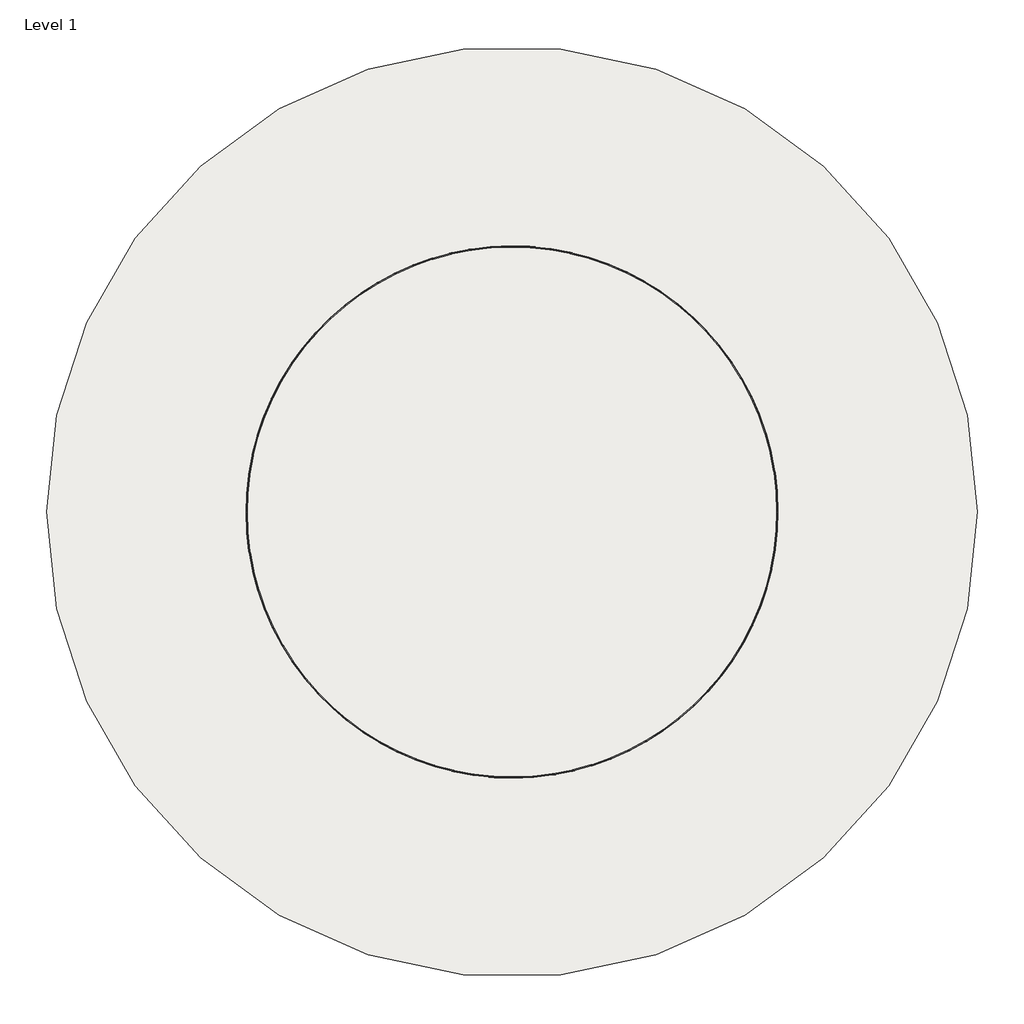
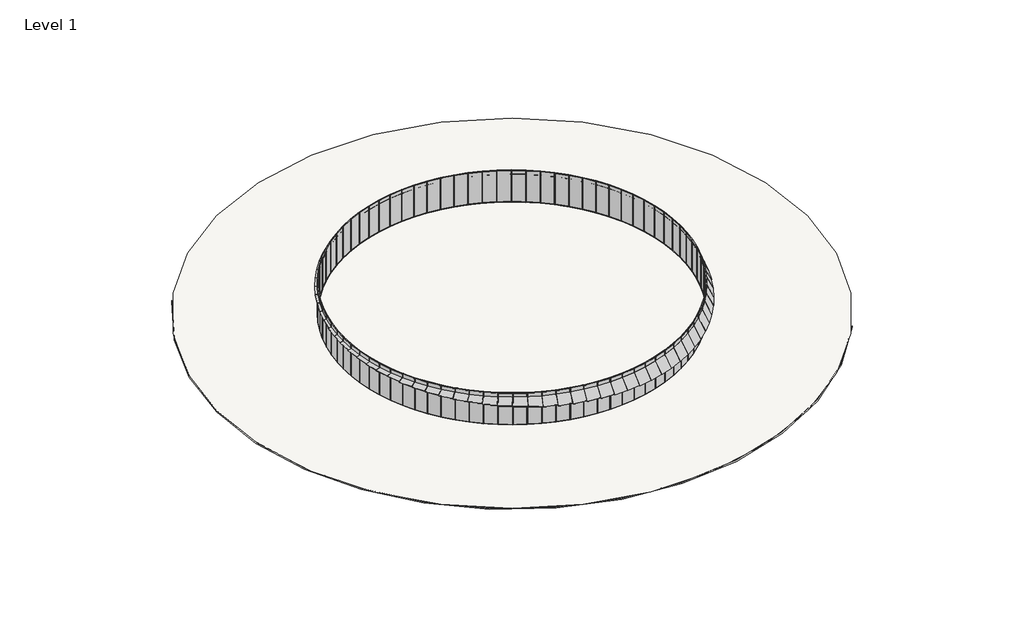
# One storey: 84 plates, 1 slab.
"""IFC4 building model written with IfcOpenShell, lengths in millimetres."""

from ifc_helpers import new_model, si_unit, point, frame, origin, origin_2d, place, context, project, spatial, circle_curve, trimmed, segment, composite_curve, outline, extrude, transform, mapped, element, save
from components import typical_panel_typical_panel_135e8f23, typical_panel_typical_panel_5595ccfb, typical_panel_typical_panel_1dacabfa, typical_panel_typical_panel_de002282, typical_panel_typical_panel_c068772c, typical_panel_typical_panel_b4f8cd0d, typical_panel_typical_panel_24d31985, typical_panel_typical_panel_bf64ccab, typical_panel_typical_panel_7269d920, typical_panel_typical_panel_007911d2, typical_panel_typical_panel_ce44b4bb, typical_panel_typical_panel_4d8c99ed, typical_panel_typical_panel_a2fd8389, typical_panel_typical_panel_fa7228e3, typical_panel_typical_panel_21f6f527, typical_panel_typical_panel_1338079b, typical_panel_typical_panel_994178b1, typical_panel_typical_panel_321f3c24, typical_panel_typical_panel_c4bb10ae, typical_panel_typical_panel_636d6651, typical_panel_typical_panel_3eeb6f99, typical_panel_typical_panel_555c9846, typical_panel_typical_panel_89c6637b, typical_panel_typical_panel_d72680d6, typical_panel_typical_panel_a65719b3, typical_panel_typical_panel_fb959741, typical_panel_typical_panel_bf9a72a6, typical_panel_typical_panel_530a7cf6, typical_panel_typical_panel_7dcf532a, typical_panel_typical_panel_64653f65, typical_panel_typical_panel_a58b40de, typical_panel_typical_panel_9cbe78d2, typical_panel_typical_panel_3d8b9d05, typical_panel_typical_panel_1fc3b25d, typical_panel_typical_panel_199775df, typical_panel_typical_panel_c7be0750, typical_panel_typical_panel_b461bed4, typical_panel_typical_panel_5af8f8b4, typical_panel_typical_panel_452a3de3, typical_panel_typical_panel_9333b02c, typical_panel_typical_panel_dc0afd6a, typical_panel_typical_panel_484bad6c, typical_panel_typical_panel_78da2cf4, typical_panel_typical_panel_ad1c7da8, typical_panel_typical_panel_823978b0, typical_panel_typical_panel_4a132dac, typical_panel_typical_panel_328596d2, typical_panel_typical_panel_e094c6e8, typical_panel_typical_panel_4f07c011, typical_panel_typical_panel_1149305a, typical_panel_typical_panel_529db082, typical_panel_typical_panel_4d45919f, typical_panel_typical_panel_7d76078b, typical_panel_typical_panel_77cb67d9, typical_panel_typical_panel_1d00d27b, typical_panel_typical_panel_c6367479, typical_panel_typical_panel_41a3be12, typical_panel_typical_panel_ce5b174f, typical_panel_typical_panel_92cceb4c, typical_panel_typical_panel_8b2101b3, typical_panel_typical_panel_25451a31, typical_panel_typical_panel_bbcebb09, typical_panel_typical_panel_16c89cbd, typical_panel_typical_panel_3222c149, typical_panel_typical_panel_e5a42394, typical_panel_typical_panel_2061968d, typical_panel_typical_panel_abac9c48, typical_panel_typical_panel_9d5c9c45, typical_panel_typical_panel_519964b2, typical_panel_typical_panel_5b56934d, typical_panel_typical_panel_f94381c8, typical_panel_typical_panel_fa554c48, typical_panel_typical_panel_f5345e9d, typical_panel_typical_panel_8e1d2641

model = new_model("IFC4")

# Units and contexts
model_context = context("Model", 3, world=origin())
ifc_project = project(units=[si_unit("LENGTHUNIT", "METRE", prefix="MILLI")], contexts=[model_context])

# Site, building, storey
site = spatial("IfcSite", under=ifc_project)
building = spatial("IfcBuilding", under=site)
storey = spatial("IfcBuildingStorey", under=building, Name="Level 1", Elevation=0.0)

# Plates
placement = place(None, origin())
typical_panel_typical_panel_shape = typical_panel_typical_panel_135e8f23(model_context)
element("IfcPlate", 1, ObjectType="Typical Panel : Typical Panel", at=placement, inside=storey, context=model_context, shape_type="MappedRepresentation", body=[
    mapped(typical_panel_typical_panel_shape, transform((19971.8749993, 749.4724807, 0.0), x_axis=(-0.037500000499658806, 0.9992966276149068, 0.0), y_axis=(-0.9992966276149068, -0.037500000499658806, 0.0), z_axis=(0.0, 0.0, 1.0))),
])
typical_panel_typical_panel_2_shape = typical_panel_typical_panel_5595ccfb(model_context)
element("IfcPlate", 2, ObjectType="Typical Panel : Typical Panel", at=placement, inside=storey, context=model_context, shape_type="MappedRepresentation", body=[
    mapped(typical_panel_typical_panel_2_shape, transform((-19971.8749993, -749.4724807, 0.0), x_axis=(0.03750000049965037, -0.9992966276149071, 0.0), y_axis=(0.9992966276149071, 0.03750000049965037, 0.0), z_axis=(0.0, 0.0, 1.0))),
])
typical_panel_typical_panel_3_shape = typical_panel_typical_panel_1dacabfa(model_context)
element("IfcPlate", 3, ObjectType="Typical Panel : Typical Panel", at=placement, inside=storey, context=model_context, shape_type="MappedRepresentation", body=[
    mapped(typical_panel_typical_panel_3_shape, transform((19859.5332009, 2244.2016494, 0.0), x_axis=(-0.11228906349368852, 0.9936755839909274, 0.0), y_axis=(-0.9936755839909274, -0.11228906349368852, 0.0), z_axis=(0.0, 0.0, 1.0))),
])
typical_panel_typical_panel_4_shape = typical_panel_typical_panel_de002282(model_context)
element("IfcPlate", 4, ObjectType="Typical Panel : Typical Panel", at=placement, inside=storey, context=model_context, shape_type="MappedRepresentation", body=[
    mapped(typical_panel_typical_panel_4_shape, transform((19635.4815283, 3726.3071738, 0.0), x_axis=(-0.18644650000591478, 0.9824651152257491, 0.0), y_axis=(-0.9824651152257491, -0.18644650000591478, 0.0), z_axis=(0.0, 0.0, 1.0))),
])
element("IfcPlate", 5, ObjectType="Typical Panel : Typical Panel", at=placement, inside=storey, context=model_context, shape_type="MappedRepresentation", body=[
    mapped(typical_panel_typical_panel_4_shape, transform((5275.6619728, -19277.0560706, 0.0), x_axis=(0.9645312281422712, 0.2639687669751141, 0.0), y_axis=(-0.2639687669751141, 0.9645312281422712, 0.0), z_axis=(0.0, 0.0, 1.0))),
])
typical_panel_typical_panel_5_shape = typical_panel_typical_panel_c068772c(model_context)
element("IfcPlate", 6, ObjectType="Typical Panel : Typical Panel", at=placement, inside=storey, context=model_context, shape_type="MappedRepresentation", body=[
    mapped(typical_panel_typical_panel_5_shape, transform((19300.980272, 5187.4522204, 0.0), x_axis=(-0.25955517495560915, 0.9657282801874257, 0.0), y_axis=(-0.9657282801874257, -0.25955517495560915, 0.0), z_axis=(0.0, 0.0, 1.0))),
])
typical_panel_typical_panel_6_shape = typical_panel_typical_panel_b4f8cd0d(model_context)
element("IfcPlate", 7, ObjectType="Typical Panel : Typical Panel", at=placement, inside=storey, context=model_context, shape_type="MappedRepresentation", body=[
    mapped(typical_panel_typical_panel_6_shape, transform((18857.9110018, 6619.4178482, 0.0), x_axis=(-0.3312038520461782, 0.9435592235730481, 0.0), y_axis=(-0.9435592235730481, -0.3312038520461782, 0.0), z_axis=(0.0, 0.0, 1.0))),
])
typical_panel_typical_panel_7_shape = typical_panel_typical_panel_24d31985(model_context)
element("IfcPlate", 8, ObjectType="Typical Panel : Typical Panel", at=placement, inside=storey, context=model_context, shape_type="MappedRepresentation", body=[
    mapped(typical_panel_typical_panel_7_shape, transform((18308.7659821, 8014.1492506, 0.0), x_axis=(-0.40098950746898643, 0.9160826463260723, 0.0), y_axis=(-0.9160826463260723, -0.40098950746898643, 0.0), z_axis=(0.0, 0.0, 1.0))),
])
typical_panel_typical_panel_8_shape = typical_panel_typical_panel_bf64ccab(model_context)
element("IfcPlate", 9, ObjectType="Typical Panel : Typical Panel", at=placement, inside=storey, context=model_context, shape_type="MappedRepresentation", body=[
    mapped(typical_panel_typical_panel_8_shape, transform((17656.6341539, 9363.8010635, 0.0), x_axis=(-0.46851959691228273, 0.883453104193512, 0.0), y_axis=(-0.883453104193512, -0.46851959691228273, 0.0), z_axis=(0.0, 0.0, 1.0))),
])
typical_panel_typical_panel_9_shape = typical_panel_typical_panel_7269d920(model_context)
element("IfcPlate", 10, ObjectType="Typical Panel : Typical Panel", at=placement, inside=storey, context=model_context, shape_type="MappedRepresentation", body=[
    mapped(typical_panel_typical_panel_9_shape, transform((16905.1837585, 10660.7814954, 0.0), x_axis=(-0.533414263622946, 0.8458541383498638, 0.0), y_axis=(-0.8458541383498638, -0.533414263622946, 0.0), z_axis=(0.0, 0.0, 1.0))),
])
typical_panel_typical_panel_10_shape = typical_panel_typical_panel_007911d2(model_context)
element("IfcPlate", 11, ObjectType="Typical Panel : Typical Panel", at=placement, inside=storey, context=model_context, shape_type="MappedRepresentation", body=[
    mapped(typical_panel_typical_panel_10_shape, transform((16058.6417044, 11897.7950314, 0.0), x_axis=(-0.5953084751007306, 0.8034972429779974, 0.0), y_axis=(-0.8034972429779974, -0.5953084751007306, 0.0), z_axis=(0.0, 0.0, 1.0))),
])
typical_panel_typical_panel_11_shape = typical_panel_typical_panel_ce44b4bb(model_context)
element("IfcPlate", 12, ObjectType="Typical Panel : Typical Panel", at=placement, inside=storey, context=model_context, shape_type="MappedRepresentation", body=[
    mapped(typical_panel_typical_panel_11_shape, transform((15121.7697908, 13067.8834703, 0.0), x_axis=(-0.6538540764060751, 0.7566206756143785, 0.0), y_axis=(-0.7566206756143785, -0.6538540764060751, 0.0), z_axis=(0.0, 0.0, 1.0))),
])
typical_panel_typical_panel_12_shape = typical_panel_typical_panel_4d8c99ed(model_context)
element("IfcPlate", 13, ObjectType="Typical Panel : Typical Panel", at=placement, inside=storey, context=model_context, shape_type="MappedRepresentation", body=[
    mapped(typical_panel_typical_panel_12_shape, transform((14099.8379221, 14164.4650648, 0.0), x_axis=(-0.7087217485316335, 0.7054881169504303, 0.0), y_axis=(-0.7054881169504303, -0.7087217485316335, 0.0), z_axis=(0.0, 0.0, 1.0))),
])
typical_panel_typical_panel_13_shape = typical_panel_typical_panel_a2fd8389(model_context)
element("IfcPlate", 14, ObjectType="Typical Panel : Typical Panel", at=placement, inside=storey, context=model_context, shape_type="MappedRepresentation", body=[
    mapped(typical_panel_typical_panel_13_shape, transform((12998.5944651, 15181.3715432, 0.0), x_axis=(-0.7596028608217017, 0.650387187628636, 0.0), y_axis=(-0.650387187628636, -0.7596028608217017, 0.0), z_axis=(0.0, 0.0, 1.0))),
])
typical_panel_typical_panel_14_shape = typical_panel_typical_panel_fa7228e3(model_context)
element("IfcPlate", 15, ObjectType="Typical Panel : Typical Panel", at=placement, inside=storey, context=model_context, shape_type="MappedRepresentation", body=[
    mapped(typical_panel_typical_panel_14_shape, transform((11824.2339142, 16112.8828067, 0.0), x_axis=(-0.8062112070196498, 0.591627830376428, 0.0), y_axis=(-0.591627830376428, -0.8062112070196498, 0.0), z_axis=(0.0, 0.0, 1.0))),
])
typical_panel_typical_panel_15_shape = typical_panel_typical_panel_21f6f527(model_context)
element("IfcPlate", 16, ObjectType="Typical Panel : Typical Panel", at=placement, inside=storey, context=model_context, shape_type="MappedRepresentation", body=[
    mapped(typical_panel_typical_panel_15_shape, transform((10583.3620475, 16953.7591044, 0.0), x_axis=(-0.8482846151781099, 0.5295405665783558, 0.0), y_axis=(-0.5295405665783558, -0.8482846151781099, 0.0), z_axis=(0.0, 0.0, 1.0))),
])
typical_panel_typical_panel_16_shape = typical_panel_typical_panel_1338079b(model_context)
element("IfcPlate", 17, ObjectType="Typical Panel : Typical Panel", at=placement, inside=storey, context=model_context, shape_type="MappedRepresentation", body=[
    mapped(typical_panel_typical_panel_16_shape, transform((9282.9587694, 17699.2705072, 0.0), x_axis=(-0.885586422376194, 0.46447463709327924, 0.0), y_axis=(-0.46447463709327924, -0.885586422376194, 0.0), z_axis=(0.0, 0.0, 1.0))),
])
typical_panel_typical_panel_17_shape = typical_panel_typical_panel_994178b1(model_context)
element("IfcPlate", 18, ObjectType="Typical Panel : Typical Panel", at=placement, inside=storey, context=model_context, shape_type="MappedRepresentation", body=[
    mapped(typical_panel_typical_panel_17_shape, transform((7930.3388481, 18345.2235133, 0.0), x_axis=(-0.9179068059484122, 0.3967960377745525, 0.0), y_axis=(-0.3967960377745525, -0.9179068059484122, 0.0), z_axis=(0.0, 0.0, 1.0))),
])
typical_panel_typical_panel_18_shape = typical_panel_typical_panel_321f3c24(model_context)
element("IfcPlate", 19, ObjectType="Typical Panel : Typical Panel", at=placement, inside=storey, context=model_context, shape_type="MappedRepresentation", body=[
    mapped(typical_panel_typical_panel_18_shape, transform((6533.1107709, 18887.9846372, 0.0), x_axis=(-0.9450639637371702, 0.32688546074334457, 0.0), y_axis=(-0.32688546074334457, -0.9450639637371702, 0.0), z_axis=(0.0, 0.0, 1.0))),
])
typical_panel_typical_panel_19_shape = typical_panel_typical_panel_c4bb10ae(model_context)
element("IfcPlate", 20, ObjectType="Typical Panel : Typical Panel", at=placement, inside=storey, context=model_context, shape_type="MappedRepresentation", body=[
    mapped(typical_panel_typical_panel_19_shape, transform((5099.1339455, 19324.5008475, 0.0), x_axis=(-0.966905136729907, 0.2551361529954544, 0.0), y_axis=(-0.2551361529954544, -0.966905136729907, 0.0), z_axis=(0.0, 0.0, 1.0))),
])
typical_panel_typical_panel_20_shape = typical_panel_typical_panel_636d6651(model_context)
element("IfcPlate", 21, ObjectType="Typical Panel : Typical Panel", at=placement, inside=storey, context=model_context, shape_type="MappedRepresentation", body=[
    mapped(typical_panel_typical_panel_20_shape, transform((3636.4744917, 19652.3167406, 0.0), x_axis=(-0.9833074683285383, 0.18195170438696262, 0.0), y_axis=(-0.18195170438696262, -0.9833074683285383, 0.0), z_axis=(0.0, 0.0, 1.0))),
])
typical_panel_typical_panel_21_shape = typical_panel_typical_panel_3eeb6f99(model_context)
element("IfcPlate", 22, ObjectType="Typical Panel : Typical Panel", at=placement, inside=storey, context=model_context, shape_type="MappedRepresentation", body=[
    mapped(typical_panel_typical_panel_21_shape, transform((2153.3598689, 19869.5883519, 0.0), x_axis=(-0.9941786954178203, 0.10774377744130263, 0.0), y_axis=(-0.10774377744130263, -0.9941786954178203, 0.0), z_axis=(0.0, 0.0, 1.0))),
])
typical_panel_typical_panel_22_shape = typical_panel_typical_panel_555c9846(model_context)
element("IfcPlate", 23, ObjectType="Typical Panel : Typical Panel", at=placement, inside=storey, context=model_context, shape_type="MappedRepresentation", body=[
    mapped(typical_panel_typical_panel_22_shape, transform((658.1325968, 19975.0935288, 0.0), x_axis=(-0.9994576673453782, 0.032929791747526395, 0.0), y_axis=(-0.032929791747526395, -0.9994576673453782, 0.0), z_axis=(0.0, 0.0, 1.0))),
])
typical_panel_typical_panel_23_shape = typical_panel_typical_panel_89c6637b(model_context)
element("IfcPlate", 24, ObjectType="Typical Panel : Typical Panel", at=placement, inside=storey, context=model_context, shape_type="MappedRepresentation", body=[
    mapped(typical_panel_typical_panel_23_shape, transform((-840.7966711, 19968.2388046, 0.0), x_axis=(-0.999114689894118, -0.04206942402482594, 0.0), y_axis=(0.04206942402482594, -0.999114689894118, 0.0), z_axis=(0.0, 0.0, 1.0))),
])
typical_panel_typical_panel_24_shape = typical_panel_typical_panel_d72680d6(model_context)
element("IfcPlate", 25, ObjectType="Typical Panel : Typical Panel", at=placement, inside=storey, context=model_context, shape_type="MappedRepresentation", body=[
    mapped(typical_panel_typical_panel_24_shape, transform((-2334.9964577, 19849.0627371, 0.0), x_axis=(-0.9931516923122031, -0.11683199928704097, 0.0), y_axis=(0.11683199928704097, -0.9931516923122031, 0.0), z_axis=(0.0, 0.0, 1.0))),
])
typical_panel_typical_panel_25_shape = typical_panel_typical_panel_a65719b3(model_context)
element("IfcPlate", 26, ObjectType="Typical Panel : Typical Panel", at=placement, inside=storey, context=model_context, shape_type="MappedRepresentation", body=[
    mapped(typical_panel_typical_panel_25_shape, transform((-3816.0618893, 19618.2356917, 0.0), x_axis=(-0.9816022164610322, -0.19093739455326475, 0.0), y_axis=(0.19093739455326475, -0.9816022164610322, 0.0), z_axis=(0.0, 0.0, 1.0))),
])
typical_panel_typical_panel_26_shape = typical_panel_typical_panel_fb959741(model_context)
element("IfcPlate", 27, ObjectType="Typical Panel : Typical Panel", at=placement, inside=storey, context=model_context, shape_type="MappedRepresentation", body=[
    mapped(typical_panel_typical_panel_26_shape, transform((-5275.6619728, 19277.0560706, 0.0), x_axis=(-0.964531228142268, -0.2639687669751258, 0.0), y_axis=(0.2639687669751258, -0.964531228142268, 0.0), z_axis=(0.0, 0.0, 1.0))),
])
element("IfcPlate", 28, ObjectType="Typical Panel : Typical Panel", at=placement, inside=storey, context=model_context, shape_type="MappedRepresentation", body=[
    mapped(typical_panel_typical_panel_26_shape, transform((-19635.4815283, -3726.3071738, 0.0), x_axis=(0.1864465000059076, -0.9824651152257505, 0.0), y_axis=(0.9824651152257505, 0.1864465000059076, 0.0), z_axis=(0.0, 0.0, 1.0))),
])
typical_panel_typical_panel_27_shape = typical_panel_typical_panel_bf9a72a6(model_context)
element("IfcPlate", 29, ObjectType="Typical Panel : Typical Panel", at=placement, inside=storey, context=model_context, shape_type="MappedRepresentation", body=[
    mapped(typical_panel_typical_panel_27_shape, transform((-6705.5864576, 18827.4430091, 0.0), x_axis=(-0.9420347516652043, -0.3355153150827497, 0.0), y_axis=(0.3355153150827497, -0.9420347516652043, 0.0), z_axis=(0.0, 0.0, 1.0))),
])
typical_panel_typical_panel_28_shape = typical_panel_typical_panel_530a7cf6(model_context)
element("IfcPlate", 30, ObjectType="Typical Panel : Typical Panel", at=placement, inside=storey, context=model_context, shape_type="MappedRepresentation", body=[
    mapped(typical_panel_typical_panel_28_shape, transform((-8097.7920187, 18271.9255806, 0.0), x_axis=(-0.9142393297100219, -0.4051745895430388, 0.0), y_axis=(0.4051745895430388, -0.9142393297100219, 0.0), z_axis=(0.0, 0.0, 1.0))),
])
typical_panel_typical_panel_29_shape = typical_panel_typical_panel_7dcf532a(model_context)
element("IfcPlate", 31, ObjectType="Typical Panel : Typical Panel", at=placement, inside=storey, context=model_context, shape_type="MappedRepresentation", body=[
    mapped(typical_panel_typical_panel_29_shape, transform((-9444.4474996, 17613.6285707, 0.0), x_axis=(-0.881301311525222, -0.4725547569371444, 0.0), y_axis=(0.4725547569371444, -0.881301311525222, 0.0), z_axis=(0.0, 0.0, 1.0))),
])
typical_panel_typical_panel_30_shape = typical_panel_typical_panel_64653f65(model_context)
element("IfcPlate", 32, ObjectType="Typical Panel : Typical Panel", at=placement, inside=storey, context=model_context, shape_type="MappedRepresentation", body=[
    mapped(typical_panel_typical_panel_30_shape, transform((-10737.9779633, 16856.2549002, 0.0), x_axis=(-0.8434059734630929, -0.5372768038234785, 0.0), y_axis=(0.5372768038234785, -0.8434059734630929, 0.0), z_axis=(0.0, 0.0, 1.0))),
])
typical_panel_typical_panel_31_shape = typical_panel_typical_panel_a58b40de(model_context)
element("IfcPlate", 33, ObjectType="Typical Panel : Typical Panel", at=placement, inside=storey, context=model_context, shape_type="MappedRepresentation", body=[
    mapped(typical_panel_typical_panel_31_shape, transform((-11971.107301, 16004.0647958, 0.0), x_axis=(-0.8007664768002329, -0.5989766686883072, 0.0), y_axis=(0.5989766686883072, -0.8007664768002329, 0.0), z_axis=(0.0, 0.0, 1.0))),
])
typical_panel_typical_panel_32_shape = typical_panel_typical_panel_9cbe78d2(model_context)
element("IfcPlate", 34, ObjectType="Typical Panel : Typical Panel", at=placement, inside=storey, context=model_context, shape_type="MappedRepresentation", body=[
    mapped(typical_panel_typical_panel_32_shape, transform((-13136.8991602, 15061.8518269, 0.0), x_axis=(-0.753622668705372, -0.6573072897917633, 0.0), y_axis=(0.6573072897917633, -0.753622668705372, 0.0), z_axis=(0.0, 0.0, 1.0))),
])
typical_panel_typical_panel_33_shape = typical_panel_typical_panel_3d8b9d05(model_context)
element("IfcPlate", 35, ObjectType="Typical Panel : Typical Panel", at=placement, inside=storey, context=model_context, shape_type="MappedRepresentation", body=[
    mapped(typical_panel_typical_panel_33_shape, transform((-14228.7959615, 14034.9159415, 0.0), x_axis=(-0.7022397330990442, -0.7119405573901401, 0.0), y_axis=(0.7119405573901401, -0.7022397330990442, 0.0), z_axis=(0.0, 0.0, 1.0))),
])
element("IfcPlate", 36, ObjectType="Typical Panel : Typical Panel", at=placement, inside=storey, context=model_context, shape_type="MappedRepresentation", body=[
    mapped(typical_panel_typical_panel_33_shape, transform((-18917.6632601, 6446.6671061, 0.0), x_axis=(-0.32256023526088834, -0.9465489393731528, 0.0), y_axis=(0.9465489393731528, -0.32256023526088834, 0.0), z_axis=(0.0, 0.0, 1.0))),
])
typical_panel_typical_panel_34_shape = typical_panel_typical_panel_1fc3b25d(model_context)
element("IfcPlate", 37, ObjectType="Typical Panel : Typical Panel", at=placement, inside=storey, context=model_context, shape_type="MappedRepresentation", body=[
    mapped(typical_panel_typical_panel_34_shape, transform((-15240.6557856, 12929.033654, 0.0), x_axis=(-0.6469066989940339, -0.7625691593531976, 0.0), y_axis=(0.7625691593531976, -0.6469066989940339, 0.0), z_axis=(0.0, 0.0, 1.0))),
])
element("IfcPlate", 38, ObjectType="Typical Panel : Typical Panel", at=placement, inside=storey, context=model_context, shape_type="MappedRepresentation", body=[
    mapped(typical_panel_typical_panel_34_shape, transform((-18381.2973798, 7846.3626373, 0.0), x_axis=(-0.3925942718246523, -0.9197117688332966, 0.0), y_axis=(0.9197117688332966, -0.3925942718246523, 0.0), z_axis=(0.0, 0.0, 1.0))),
])
typical_panel_typical_panel_35_shape = typical_panel_typical_panel_199775df(model_context)
element("IfcPlate", 39, ObjectType="Typical Panel : Typical Panel", at=placement, inside=storey, context=model_context, shape_type="MappedRepresentation", body=[
    mapped(typical_panel_typical_panel_35_shape, transform((-16166.7869209, 11750.4255521, 0.0), x_axis=(-0.58793481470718, -0.808908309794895, 0.0), y_axis=(0.808908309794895, -0.58793481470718, 0.0), z_axis=(0.0, 0.0, 1.0))),
])
element("IfcPlate", 40, ObjectType="Typical Panel : Typical Panel", at=placement, inside=storey, context=model_context, shape_type="MappedRepresentation", body=[
    mapped(typical_panel_typical_panel_35_shape, transform((-17001.9798797, 10505.7213065, 0.0), x_axis=(-0.5256557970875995, -0.8506973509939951, 0.0), y_axis=(0.8506973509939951, -0.5256557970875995, 0.0), z_axis=(0.0, 0.0, 1.0))),
])
element("IfcPlate", 41, ObjectType="Typical Panel : Typical Panel", at=placement, inside=storey, context=model_context, shape_type="MappedRepresentation", body=[
    mapped(typical_panel_typical_panel_35_shape, transform((-17741.5367017, 9201.9223786, 0.0), x_axis=(-0.46041996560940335, -0.8877012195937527, 0.0), y_axis=(0.8877012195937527, -0.46041996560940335, 0.0), z_axis=(0.0, 0.0, 1.0))),
])
typical_panel_typical_panel_36_shape = typical_panel_typical_panel_c7be0750(model_context)
element("IfcPlate", 42, ObjectType="Typical Panel : Typical Panel", at=placement, inside=storey, context=model_context, shape_type="MappedRepresentation", body=[
    mapped(typical_panel_typical_panel_36_shape, transform((-19347.6172846, 5010.7090725, 0.0), x_axis=(-0.2507117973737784, -0.968061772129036, 0.0), y_axis=(0.968061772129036, -0.2507117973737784, 0.0), z_axis=(0.0, 0.0, 1.0))),
])
typical_panel_typical_panel_37_shape = typical_panel_typical_panel_b461bed4(model_context)
element("IfcPlate", 43, ObjectType="Typical Panel : Typical Panel", at=placement, inside=storey, context=model_context, shape_type="MappedRepresentation", body=[
    mapped(typical_panel_typical_panel_37_shape, transform((-19668.7409618, 3546.5658003, 0.0), x_axis=(-0.17745310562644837, -0.9841292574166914, 0.0), y_axis=(0.9841292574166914, -0.17745310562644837, 0.0), z_axis=(0.0, 0.0, 1.0))),
])
typical_panel_typical_panel_38_shape = typical_panel_typical_panel_5af8f8b4(model_context)
element("IfcPlate", 44, ObjectType="Typical Panel : Typical Panel", at=placement, inside=storey, context=model_context, shape_type="MappedRepresentation", body=[
    mapped(typical_panel_typical_panel_38_shape, transform((-19879.2279712, 2062.4730955, 0.0), x_axis=(-0.10319624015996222, -0.9946610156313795, 0.0), y_axis=(0.9946610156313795, -0.10319624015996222, 0.0), z_axis=(0.0, 0.0, 1.0))),
])
typical_panel_typical_panel_39_shape = typical_panel_typical_panel_452a3de3(model_context)
element("IfcPlate", 45, ObjectType="Typical Panel : Typical Panel", at=placement, inside=storey, context=model_context, shape_type="MappedRepresentation", body=[
    mapped(typical_panel_typical_panel_39_shape, transform((-19978.3125757, 658.2386669, 0.0), x_axis=(-0.03292979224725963, -0.9994576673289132, 0.0), y_axis=(0.9994576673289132, -0.03292979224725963, 0.0), z_axis=(0.0, 0.0, 1.0))),
])
typical_panel_typical_panel_40_shape = typical_panel_typical_panel_9333b02c(model_context)
element("IfcPlate", 46, ObjectType="Typical Panel : Typical Panel", at=placement, inside=storey, context=model_context, shape_type="MappedRepresentation", body=[
    mapped(typical_panel_typical_panel_40_shape, transform((-19859.5332009, -2244.2016494, 0.0), x_axis=(0.11228906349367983, -0.9936755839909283, 0.0), y_axis=(0.9936755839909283, 0.11228906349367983, 0.0), z_axis=(0.0, 0.0, 1.0))),
])
typical_panel_typical_panel_41_shape = typical_panel_typical_panel_dc0afd6a(model_context)
element("IfcPlate", 47, ObjectType="Typical Panel : Typical Panel", at=placement, inside=storey, context=model_context, shape_type="MappedRepresentation", body=[
    mapped(typical_panel_typical_panel_41_shape, transform((-19300.980272, -5187.4522204, 0.0), x_axis=(0.2595551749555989, -0.9657282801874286, 0.0), y_axis=(0.9657282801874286, 0.2595551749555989, 0.0), z_axis=(0.0, 0.0, 1.0))),
])
typical_panel_typical_panel_42_shape = typical_panel_typical_panel_484bad6c(model_context)
element("IfcPlate", 48, ObjectType="Typical Panel : Typical Panel", at=placement, inside=storey, context=model_context, shape_type="MappedRepresentation", body=[
    mapped(typical_panel_typical_panel_42_shape, transform((-18857.9110018, -6619.4178482, 0.0), x_axis=(0.33120385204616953, -0.9435592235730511, 0.0), y_axis=(0.9435592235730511, 0.33120385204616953, 0.0), z_axis=(0.0, 0.0, 1.0))),
])
typical_panel_typical_panel_43_shape = typical_panel_typical_panel_78da2cf4(model_context)
element("IfcPlate", 49, ObjectType="Typical Panel : Typical Panel", at=placement, inside=storey, context=model_context, shape_type="MappedRepresentation", body=[
    mapped(typical_panel_typical_panel_43_shape, transform((-18308.7659821, -8014.1492506, 0.0), x_axis=(0.4009895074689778, -0.916082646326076, 0.0), y_axis=(0.916082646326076, 0.4009895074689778, 0.0), z_axis=(0.0, 0.0, 1.0))),
])
typical_panel_typical_panel_44_shape = typical_panel_typical_panel_ad1c7da8(model_context)
element("IfcPlate", 50, ObjectType="Typical Panel : Typical Panel", at=placement, inside=storey, context=model_context, shape_type="MappedRepresentation", body=[
    mapped(typical_panel_typical_panel_44_shape, transform((-17656.6341539, -9363.8010635, 0.0), x_axis=(0.46851959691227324, -0.8834531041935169, 0.0), y_axis=(0.8834531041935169, 0.46851959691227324, 0.0), z_axis=(0.0, 0.0, 1.0))),
])
typical_panel_typical_panel_45_shape = typical_panel_typical_panel_823978b0(model_context)
element("IfcPlate", 51, ObjectType="Typical Panel : Typical Panel", at=placement, inside=storey, context=model_context, shape_type="MappedRepresentation", body=[
    mapped(typical_panel_typical_panel_45_shape, transform((-16905.1837585, -10660.7814954, 0.0), x_axis=(0.5334142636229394, -0.8458541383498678, 0.0), y_axis=(0.8458541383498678, 0.5334142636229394, 0.0), z_axis=(0.0, 0.0, 1.0))),
])
typical_panel_typical_panel_46_shape = typical_panel_typical_panel_4a132dac(model_context)
element("IfcPlate", 52, ObjectType="Typical Panel : Typical Panel", at=placement, inside=storey, context=model_context, shape_type="MappedRepresentation", body=[
    mapped(typical_panel_typical_panel_46_shape, transform((-16058.6417044, -11897.7950314, 0.0), x_axis=(0.5953084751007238, -0.8034972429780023, 0.0), y_axis=(0.8034972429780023, 0.5953084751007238, 0.0), z_axis=(0.0, 0.0, 1.0))),
])
typical_panel_typical_panel_47_shape = typical_panel_typical_panel_328596d2(model_context)
element("IfcPlate", 53, ObjectType="Typical Panel : Typical Panel", at=placement, inside=storey, context=model_context, shape_type="MappedRepresentation", body=[
    mapped(typical_panel_typical_panel_47_shape, transform((-15121.7697908, -13067.8834703, 0.0), x_axis=(0.6538540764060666, -0.7566206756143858, 0.0), y_axis=(0.7566206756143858, 0.6538540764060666, 0.0), z_axis=(0.0, 0.0, 1.0))),
])
typical_panel_typical_panel_48_shape = typical_panel_typical_panel_e094c6e8(model_context)
element("IfcPlate", 54, ObjectType="Typical Panel : Typical Panel", at=placement, inside=storey, context=model_context, shape_type="MappedRepresentation", body=[
    mapped(typical_panel_typical_panel_48_shape, transform((-14099.8379221, -14164.4650648, 0.0), x_axis=(0.7087217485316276, -0.7054881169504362, 0.0), y_axis=(0.7054881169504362, 0.7087217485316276, 0.0), z_axis=(0.0, 0.0, 1.0))),
])
typical_panel_typical_panel_49_shape = typical_panel_typical_panel_4f07c011(model_context)
element("IfcPlate", 55, ObjectType="Typical Panel : Typical Panel", at=placement, inside=storey, context=model_context, shape_type="MappedRepresentation", body=[
    mapped(typical_panel_typical_panel_49_shape, transform((-12998.5944651, -15181.3715432, 0.0), x_axis=(0.7596028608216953, -0.6503871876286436, 0.0), y_axis=(0.6503871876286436, 0.7596028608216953, 0.0), z_axis=(0.0, 0.0, 1.0))),
])
typical_panel_typical_panel_50_shape = typical_panel_typical_panel_1149305a(model_context)
element("IfcPlate", 56, ObjectType="Typical Panel : Typical Panel", at=placement, inside=storey, context=model_context, shape_type="MappedRepresentation", body=[
    mapped(typical_panel_typical_panel_50_shape, transform((-11824.2339142, -16112.8828067, 0.0), x_axis=(0.8062112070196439, -0.591627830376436, 0.0), y_axis=(0.591627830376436, 0.8062112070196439, 0.0), z_axis=(0.0, 0.0, 1.0))),
])
typical_panel_typical_panel_51_shape = typical_panel_typical_panel_529db082(model_context)
element("IfcPlate", 57, ObjectType="Typical Panel : Typical Panel", at=placement, inside=storey, context=model_context, shape_type="MappedRepresentation", body=[
    mapped(typical_panel_typical_panel_51_shape, transform((-10583.3620475, -16953.7591044, 0.0), x_axis=(0.8482846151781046, -0.5295405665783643, 0.0), y_axis=(0.5295405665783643, 0.8482846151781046, 0.0), z_axis=(0.0, 0.0, 1.0))),
])
typical_panel_typical_panel_52_shape = typical_panel_typical_panel_4d45919f(model_context)
element("IfcPlate", 58, ObjectType="Typical Panel : Typical Panel", at=placement, inside=storey, context=model_context, shape_type="MappedRepresentation", body=[
    mapped(typical_panel_typical_panel_52_shape, transform((-9282.9587694, -17699.2705072, 0.0), x_axis=(0.8855864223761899, -0.46447463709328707, 0.0), y_axis=(0.46447463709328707, 0.8855864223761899, 0.0), z_axis=(0.0, 0.0, 1.0))),
])
typical_panel_typical_panel_53_shape = typical_panel_typical_panel_7d76078b(model_context)
element("IfcPlate", 59, ObjectType="Typical Panel : Typical Panel", at=placement, inside=storey, context=model_context, shape_type="MappedRepresentation", body=[
    mapped(typical_panel_typical_panel_53_shape, transform((-7930.3388481, -18345.2235133, 0.0), x_axis=(0.9179068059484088, -0.39679603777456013, 0.0), y_axis=(0.39679603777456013, 0.9179068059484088, 0.0), z_axis=(0.0, 0.0, 1.0))),
])
typical_panel_typical_panel_54_shape = typical_panel_typical_panel_77cb67d9(model_context)
element("IfcPlate", 60, ObjectType="Typical Panel : Typical Panel", at=placement, inside=storey, context=model_context, shape_type="MappedRepresentation", body=[
    mapped(typical_panel_typical_panel_54_shape, transform((-6533.1107709, -18887.9846372, 0.0), x_axis=(0.9450639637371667, -0.3268854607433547, 0.0), y_axis=(0.3268854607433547, 0.9450639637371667, 0.0), z_axis=(0.0, 0.0, 1.0))),
])
typical_panel_typical_panel_55_shape = typical_panel_typical_panel_1d00d27b(model_context)
element("IfcPlate", 61, ObjectType="Typical Panel : Typical Panel", at=placement, inside=storey, context=model_context, shape_type="MappedRepresentation", body=[
    mapped(typical_panel_typical_panel_55_shape, transform((-5099.1339455, -19324.5008475, 0.0), x_axis=(0.9669051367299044, -0.2551361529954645, 0.0), y_axis=(0.2551361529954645, 0.9669051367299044, 0.0), z_axis=(0.0, 0.0, 1.0))),
])
typical_panel_typical_panel_56_shape = typical_panel_typical_panel_c6367479(model_context)
element("IfcPlate", 62, ObjectType="Typical Panel : Typical Panel", at=placement, inside=storey, context=model_context, shape_type="MappedRepresentation", body=[
    mapped(typical_panel_typical_panel_56_shape, transform((-3636.4744917, -19652.3167406, 0.0), x_axis=(0.9833074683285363, -0.1819517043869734, 0.0), y_axis=(0.1819517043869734, 0.9833074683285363, 0.0), z_axis=(0.0, 0.0, 1.0))),
])
typical_panel_typical_panel_57_shape = typical_panel_typical_panel_41a3be12(model_context)
element("IfcPlate", 63, ObjectType="Typical Panel : Typical Panel", at=placement, inside=storey, context=model_context, shape_type="MappedRepresentation", body=[
    mapped(typical_panel_typical_panel_57_shape, transform((-2153.3598689, -19869.5883519, 0.0), x_axis=(0.9941786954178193, -0.10774377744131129, 0.0), y_axis=(0.10774377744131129, 0.9941786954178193, 0.0), z_axis=(0.0, 0.0, 1.0))),
])
typical_panel_typical_panel_58_shape = typical_panel_typical_panel_ce5b174f(model_context)
element("IfcPlate", 64, ObjectType="Typical Panel : Typical Panel", at=placement, inside=storey, context=model_context, shape_type="MappedRepresentation", body=[
    mapped(typical_panel_typical_panel_58_shape, transform((-658.1325968, -19975.0935288, 0.0), x_axis=(0.9994576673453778, -0.032929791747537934, 0.0), y_axis=(0.032929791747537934, 0.9994576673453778, 0.0), z_axis=(0.0, 0.0, 1.0))),
])
typical_panel_typical_panel_59_shape = typical_panel_typical_panel_92cceb4c(model_context)
element("IfcPlate", 65, ObjectType="Typical Panel : Typical Panel", at=placement, inside=storey, context=model_context, shape_type="MappedRepresentation", body=[
    mapped(typical_panel_typical_panel_59_shape, transform((840.7966711, -19968.2388046, 0.0), x_axis=(0.9991146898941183, 0.042069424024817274, 0.0), y_axis=(-0.042069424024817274, 0.9991146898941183, 0.0), z_axis=(0.0, 0.0, 1.0))),
])
typical_panel_typical_panel_60_shape = typical_panel_typical_panel_8b2101b3(model_context)
element("IfcPlate", 66, ObjectType="Typical Panel : Typical Panel", at=placement, inside=storey, context=model_context, shape_type="MappedRepresentation", body=[
    mapped(typical_panel_typical_panel_60_shape, transform((2334.9964577, -19849.0627371, 0.0), x_axis=(0.9931516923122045, 0.11683199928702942, 0.0), y_axis=(-0.11683199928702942, 0.9931516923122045, 0.0), z_axis=(0.0, 0.0, 1.0))),
])
typical_panel_typical_panel_61_shape = typical_panel_typical_panel_25451a31(model_context)
element("IfcPlate", 67, ObjectType="Typical Panel : Typical Panel", at=placement, inside=storey, context=model_context, shape_type="MappedRepresentation", body=[
    mapped(typical_panel_typical_panel_61_shape, transform((3816.0618893, -19618.2356917, 0.0), x_axis=(0.9816022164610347, 0.19093739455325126, 0.0), y_axis=(-0.19093739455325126, 0.9816022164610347, 0.0), z_axis=(0.0, 0.0, 1.0))),
])
typical_panel_typical_panel_62_shape = typical_panel_typical_panel_bbcebb09(model_context)
element("IfcPlate", 68, ObjectType="Typical Panel : Typical Panel", at=placement, inside=storey, context=model_context, shape_type="MappedRepresentation", body=[
    mapped(typical_panel_typical_panel_62_shape, transform((6705.5864576, -18827.4430091, 0.0), x_axis=(0.942034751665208, 0.3355153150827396, 0.0), y_axis=(-0.3355153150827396, 0.942034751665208, 0.0), z_axis=(0.0, 0.0, 1.0))),
])
typical_panel_typical_panel_63_shape = typical_panel_typical_panel_16c89cbd(model_context)
element("IfcPlate", 69, ObjectType="Typical Panel : Typical Panel", at=placement, inside=storey, context=model_context, shape_type="MappedRepresentation", body=[
    mapped(typical_panel_typical_panel_63_shape, transform((8097.7920187, -18271.9255806, 0.0), x_axis=(0.9142393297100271, 0.40517458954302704, 0.0), y_axis=(-0.40517458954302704, 0.9142393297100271, 0.0), z_axis=(0.0, 0.0, 1.0))),
])
typical_panel_typical_panel_64_shape = typical_panel_typical_panel_3222c149(model_context)
element("IfcPlate", 70, ObjectType="Typical Panel : Typical Panel", at=placement, inside=storey, context=model_context, shape_type="MappedRepresentation", body=[
    mapped(typical_panel_typical_panel_64_shape, transform((9444.4474996, -17613.6285707, 0.0), x_axis=(0.8813013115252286, 0.47255475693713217, 0.0), y_axis=(-0.47255475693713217, 0.8813013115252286, 0.0), z_axis=(0.0, 0.0, 1.0))),
])
typical_panel_typical_panel_65_shape = typical_panel_typical_panel_e5a42394(model_context)
element("IfcPlate", 71, ObjectType="Typical Panel : Typical Panel", at=placement, inside=storey, context=model_context, shape_type="MappedRepresentation", body=[
    mapped(typical_panel_typical_panel_65_shape, transform((10737.9779633, -16856.2549002, 0.0), x_axis=(0.8434059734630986, 0.5372768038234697, 0.0), y_axis=(-0.5372768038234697, 0.8434059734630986, 0.0), z_axis=(0.0, 0.0, 1.0))),
])
typical_panel_typical_panel_66_shape = typical_panel_typical_panel_2061968d(model_context)
element("IfcPlate", 72, ObjectType="Typical Panel : Typical Panel", at=placement, inside=storey, context=model_context, shape_type="MappedRepresentation", body=[
    mapped(typical_panel_typical_panel_66_shape, transform((11971.107301, -16004.0647958, 0.0), x_axis=(0.8007664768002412, 0.5989766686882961, 0.0), y_axis=(-0.5989766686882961, 0.8007664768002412, 0.0), z_axis=(0.0, 0.0, 1.0))),
])
typical_panel_typical_panel_67_shape = typical_panel_typical_panel_abac9c48(model_context)
element("IfcPlate", 73, ObjectType="Typical Panel : Typical Panel", at=placement, inside=storey, context=model_context, shape_type="MappedRepresentation", body=[
    mapped(typical_panel_typical_panel_67_shape, transform((13136.8991602, -15061.8518269, 0.0), x_axis=(0.7536226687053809, 0.6573072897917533, 0.0), y_axis=(-0.6573072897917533, 0.7536226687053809, 0.0), z_axis=(0.0, 0.0, 1.0))),
])
typical_panel_typical_panel_68_shape = typical_panel_typical_panel_9d5c9c45(model_context)
element("IfcPlate", 74, ObjectType="Typical Panel : Typical Panel", at=placement, inside=storey, context=model_context, shape_type="MappedRepresentation", body=[
    mapped(typical_panel_typical_panel_68_shape, transform((14228.7959615, -14034.9159415, 0.0), x_axis=(0.7022397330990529, 0.7119405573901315, 0.0), y_axis=(-0.7119405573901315, 0.7022397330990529, 0.0), z_axis=(0.0, 0.0, 1.0))),
])
element("IfcPlate", 75, ObjectType="Typical Panel : Typical Panel", at=placement, inside=storey, context=model_context, shape_type="MappedRepresentation", body=[
    mapped(typical_panel_typical_panel_68_shape, transform((18917.6632601, -6446.6671061, 0.0), x_axis=(0.3225602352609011, 0.9465489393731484, 0.0), y_axis=(-0.9465489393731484, 0.3225602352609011, 0.0), z_axis=(0.0, 0.0, 1.0))),
])
typical_panel_typical_panel_69_shape = typical_panel_typical_panel_519964b2(model_context)
element("IfcPlate", 76, ObjectType="Typical Panel : Typical Panel", at=placement, inside=storey, context=model_context, shape_type="MappedRepresentation", body=[
    mapped(typical_panel_typical_panel_69_shape, transform((15240.6557856, -12929.033654, 0.0), x_axis=(0.6469066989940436, 0.7625691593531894, 0.0), y_axis=(-0.7625691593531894, 0.6469066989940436, 0.0), z_axis=(0.0, 0.0, 1.0))),
])
element("IfcPlate", 77, ObjectType="Typical Panel : Typical Panel", at=placement, inside=storey, context=model_context, shape_type="MappedRepresentation", body=[
    mapped(typical_panel_typical_panel_69_shape, transform((18381.2973798, -7846.3626373, 0.0), x_axis=(0.39259427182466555, 0.9197117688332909, 0.0), y_axis=(-0.9197117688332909, 0.39259427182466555, 0.0), z_axis=(0.0, 0.0, 1.0))),
])
typical_panel_typical_panel_70_shape = typical_panel_typical_panel_5b56934d(model_context)
element("IfcPlate", 78, ObjectType="Typical Panel : Typical Panel", at=placement, inside=storey, context=model_context, shape_type="MappedRepresentation", body=[
    mapped(typical_panel_typical_panel_70_shape, transform((16166.7869209, -11750.4255521, 0.0), x_axis=(0.587934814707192, 0.8089083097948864, 0.0), y_axis=(-0.8089083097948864, 0.587934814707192, 0.0), z_axis=(0.0, 0.0, 1.0))),
])
element("IfcPlate", 79, ObjectType="Typical Panel : Typical Panel", at=placement, inside=storey, context=model_context, shape_type="MappedRepresentation", body=[
    mapped(typical_panel_typical_panel_70_shape, transform((17001.9798797, -10505.7213065, 0.0), x_axis=(0.5256557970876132, 0.8506973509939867, 0.0), y_axis=(-0.8506973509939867, 0.5256557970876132, 0.0), z_axis=(0.0, 0.0, 1.0))),
])
element("IfcPlate", 80, ObjectType="Typical Panel : Typical Panel", at=placement, inside=storey, context=model_context, shape_type="MappedRepresentation", body=[
    mapped(typical_panel_typical_panel_70_shape, transform((17741.5367017, -9201.9223786, 0.0), x_axis=(0.46041996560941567, 0.8877012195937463, 0.0), y_axis=(-0.8877012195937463, 0.46041996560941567, 0.0), z_axis=(0.0, 0.0, 1.0))),
])
typical_panel_typical_panel_71_shape = typical_panel_typical_panel_f94381c8(model_context)
element("IfcPlate", 81, ObjectType="Typical Panel : Typical Panel", at=placement, inside=storey, context=model_context, shape_type="MappedRepresentation", body=[
    mapped(typical_panel_typical_panel_71_shape, transform((19347.6172846, -5010.7090725, 0.0), x_axis=(0.2507117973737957, 0.9680617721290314, 0.0), y_axis=(-0.9680617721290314, 0.2507117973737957, 0.0), z_axis=(0.0, 0.0, 1.0))),
])
typical_panel_typical_panel_72_shape = typical_panel_typical_panel_fa554c48(model_context)
element("IfcPlate", 82, ObjectType="Typical Panel : Typical Panel", at=placement, inside=storey, context=model_context, shape_type="MappedRepresentation", body=[
    mapped(typical_panel_typical_panel_72_shape, transform((19668.7409618, -3546.5658003, 0.0), x_axis=(0.17745310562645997, 0.9841292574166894, 0.0), y_axis=(-0.9841292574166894, 0.17745310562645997, 0.0), z_axis=(0.0, 0.0, 1.0))),
])
typical_panel_typical_panel_73_shape = typical_panel_typical_panel_f5345e9d(model_context)
element("IfcPlate", 83, ObjectType="Typical Panel : Typical Panel", at=placement, inside=storey, context=model_context, shape_type="MappedRepresentation", body=[
    mapped(typical_panel_typical_panel_73_shape, transform((19879.2279712, -2062.4730955, 0.0), x_axis=(0.1031962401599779, 0.9946610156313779, 0.0), y_axis=(-0.9946610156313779, 0.1031962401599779, 0.0), z_axis=(0.0, 0.0, 1.0))),
])
typical_panel_typical_panel_74_shape = typical_panel_typical_panel_8e1d2641(model_context)
element("IfcPlate", 84, ObjectType="Typical Panel : Typical Panel", at=placement, inside=storey, context=model_context, shape_type="MappedRepresentation", body=[
    mapped(typical_panel_typical_panel_74_shape, transform((19978.3125757, -658.2386669, 0.0), x_axis=(0.03292979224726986, 0.9994576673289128, 0.0), y_axis=(-0.9994576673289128, 0.03292979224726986, 0.0), z_axis=(0.0, 0.0, 1.0))),
])

# Slab
element("IfcSlab", 85, ObjectType="Generic 150mm", at=placement, inside=storey, context=model_context, shape_type="SweptSolid", body=[
    extrude(outline(composite_curve([segment(trimmed(circle_curve(origin_2d(), 35000.0), [point((-35000.0, 0.0))], [point((35000.0, 0.0))], False, "CARTESIAN"), True, "CONTINUOUS"), segment(trimmed(circle_curve(origin_2d(), 35000.0), [point((35000.0, 0.0))], [point((-35000.0, 0.0))], False, "CARTESIAN"), True, "CONTINUOUS")], self_intersect=False)), frame((0.0, 0.0, -150.0), z_axis=(0.0, 0.0, 1.0), x_axis=(1.0, 0.0, 0.0)), (0.0, 0.0, 1.0), 150.0),
])

save(model, "model.ifc")
